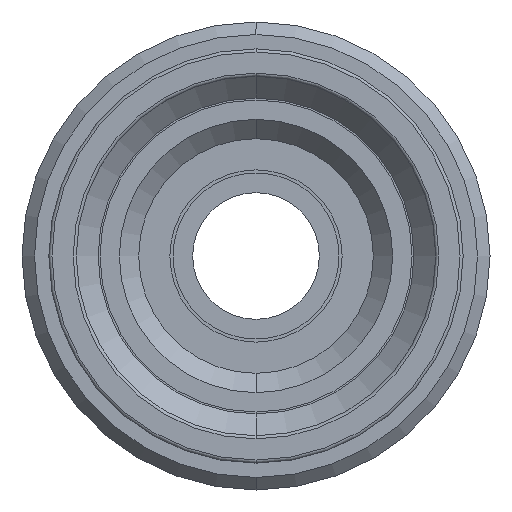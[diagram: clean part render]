
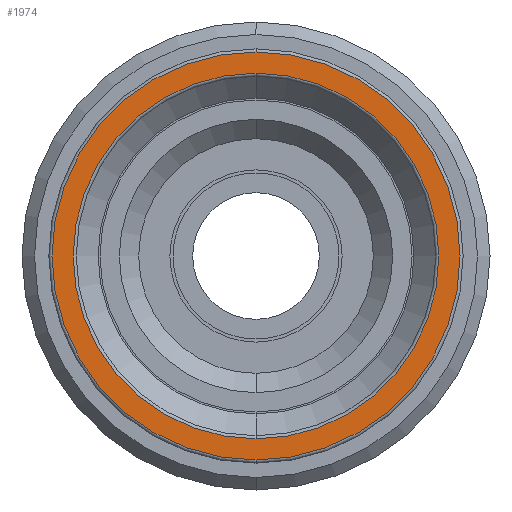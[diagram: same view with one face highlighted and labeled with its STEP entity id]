
A CAD part, front view. The second image highlights one B-rep face of the part: STEP entity #1974.
In plain terms, the highlighted planar face has unit normal (0, -1, 0).
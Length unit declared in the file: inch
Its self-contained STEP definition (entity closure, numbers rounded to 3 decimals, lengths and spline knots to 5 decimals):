
#81 = EDGE_LOOP ( 'NONE', ( #2250, #1836 ) ) ;
#82 = DIRECTION ( 'NONE',  ( 0., 0., -1. ) ) ;
#156 = DIRECTION ( 'NONE',  ( 0., 0., -1. ) ) ;
#219 = DIRECTION ( 'NONE',  ( 0., 1., 0. ) ) ;
#263 = CARTESIAN_POINT ( 'NONE',  ( 0., 0., 0.332 ) ) ;
#370 = VERTEX_POINT ( 'NONE', #779 ) ;
#382 = VERTEX_POINT ( 'NONE', #1649 ) ;
#460 = CARTESIAN_POINT ( 'NONE',  ( 0., 0., -0.293 ) ) ;
#467 = CARTESIAN_POINT ( 'NONE',  ( 0., 0., 0. ) ) ;
#550 = EDGE_CURVE ( 'NONE', #2703, #1177, #888, .T. ) ;
#779 = CARTESIAN_POINT ( 'NONE',  ( 0., 0., 0.327 ) ) ;
#807 = CIRCLE ( 'NONE', #1670, 0.327 ) ;
#808 = EDGE_CURVE ( 'NONE', #382, #370, #2479, .T. ) ;
#888 = CIRCLE ( 'NONE', #2163, 0.293 ) ;
#919 = PLANE ( 'NONE',  #2661 ) ;
#997 = ORIENTED_EDGE ( 'NONE', *, *, #550, .F. ) ;
#1114 = FACE_BOUND ( 'NONE', #1192, .T. ) ;
#1160 = DIRECTION ( 'NONE',  ( 0., 0., -1. ) ) ;
#1177 = VERTEX_POINT ( 'NONE', #460 ) ;
#1192 = EDGE_LOOP ( 'NONE', ( #997, #2601 ) ) ;
#1330 = DIRECTION ( 'NONE',  ( 0., 1., 0. ) ) ;
#1487 = AXIS2_PLACEMENT_3D ( 'NONE', #2247, #2020, #1160 ) ;
#1526 = AXIS2_PLACEMENT_3D ( 'NONE', #2588, #219, #1947 ) ;
#1596 = EDGE_CURVE ( 'NONE', #1177, #2703, #1932, .T. ) ;
#1649 = CARTESIAN_POINT ( 'NONE',  ( 0., 0., -0.327 ) ) ;
#1670 = AXIS2_PLACEMENT_3D ( 'NONE', #467, #1330, #82 ) ;
#1790 = DIRECTION ( 'NONE',  ( 0., -1., 0. ) ) ;
#1836 = ORIENTED_EDGE ( 'NONE', *, *, #808, .F. ) ;
#1840 = CARTESIAN_POINT ( 'NONE',  ( 0., 0., 0. ) ) ;
#1932 = CIRCLE ( 'NONE', #1487, 0.293 ) ;
#1947 = DIRECTION ( 'NONE',  ( 0., 0., -1. ) ) ;
#1974 = ADVANCED_FACE ( 'NONE', ( #2219, #1114 ), #919, .T. ) ;
#1992 = DIRECTION ( 'NONE',  ( 0., 0., -1. ) ) ;
#2020 = DIRECTION ( 'NONE',  ( 0., -1., 0. ) ) ;
#2163 = AXIS2_PLACEMENT_3D ( 'NONE', #1840, #2283, #156 ) ;
#2219 = FACE_OUTER_BOUND ( 'NONE', #81, .T. ) ;
#2247 = CARTESIAN_POINT ( 'NONE',  ( 0., 0., 0. ) ) ;
#2250 = ORIENTED_EDGE ( 'NONE', *, *, #2471, .F. ) ;
#2283 = DIRECTION ( 'NONE',  ( 0., -1., 0. ) ) ;
#2381 = CARTESIAN_POINT ( 'NONE',  ( 0., 0., 0.293 ) ) ;
#2471 = EDGE_CURVE ( 'NONE', #370, #382, #807, .T. ) ;
#2479 = CIRCLE ( 'NONE', #1526, 0.327 ) ;
#2588 = CARTESIAN_POINT ( 'NONE',  ( 0., 0., 0. ) ) ;
#2601 = ORIENTED_EDGE ( 'NONE', *, *, #1596, .F. ) ;
#2661 = AXIS2_PLACEMENT_3D ( 'NONE', #263, #1790, #1992 ) ;
#2703 = VERTEX_POINT ( 'NONE', #2381 ) ;
